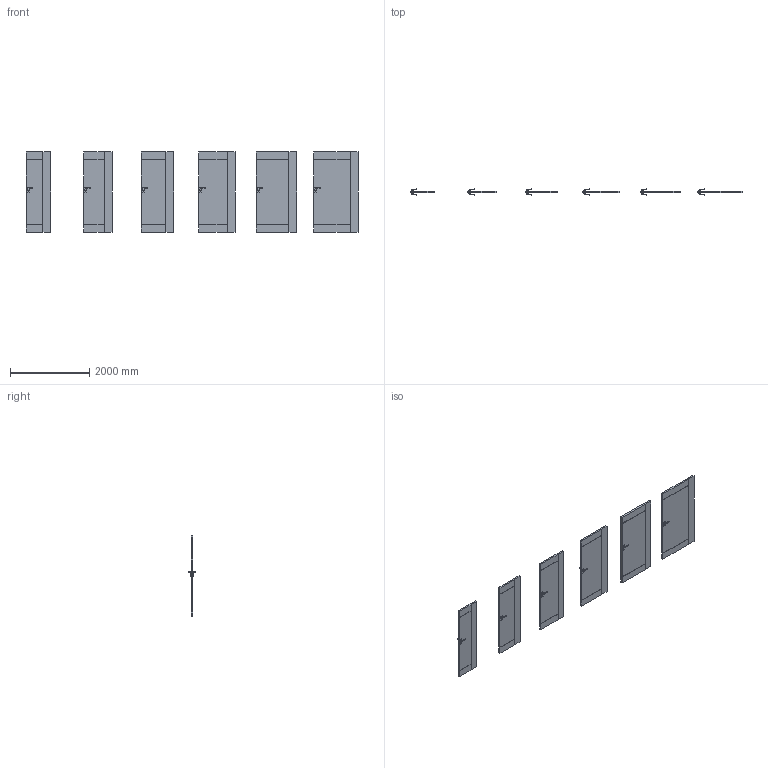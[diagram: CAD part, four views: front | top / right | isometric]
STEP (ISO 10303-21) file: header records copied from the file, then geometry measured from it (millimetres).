
FILE_DESCRIPTION(/* description */ (''),/* implementation_level */ '2;1');
FILE_NAME(/* name */ '049636_B_1-Skrzydło LINE model I.1_ polska norma _PN__ bezprzylgowe..stp',/* time_stamp */ '2024-03-19T13:52:43+01:00',/* author */ (''),/* organization */ (''),/* preprocessor_version */ 'ST-DEVELOPER v16',/* originating_system */ 'SIEMENS PLM Software NX 11.0',/* authorisation */ '');
FILE_SCHEMA (('AUTOMOTIVE_DESIGN { 1 0 10303 214 3 1 1 1 }'));
Length unit declared in the file: millimetre
Products named in the file (1): bkni0750A893la3u
Bounding box: 8368 x 153.27 x 2017 mm (x, y, z)
Volume: 413467946.7 mm3; surface area: 23344717.8 mm2
Topology: 66 solids, 66 shells, 1404 faces, 3288 edges, 1896 vertices
Faces by surface type: plane 780, cylinder 264, bspline 192, sphere 168
Entity records: 45316 total; most frequent: CARTESIAN_POINT 14845, ORIENTED_EDGE 6240, DIRECTION 5906, EDGE_CURVE 3120, LINE 2040, VECTOR 2040, AXIS2_PLACEMENT_3D 1933, VERTEX_POINT 1896
